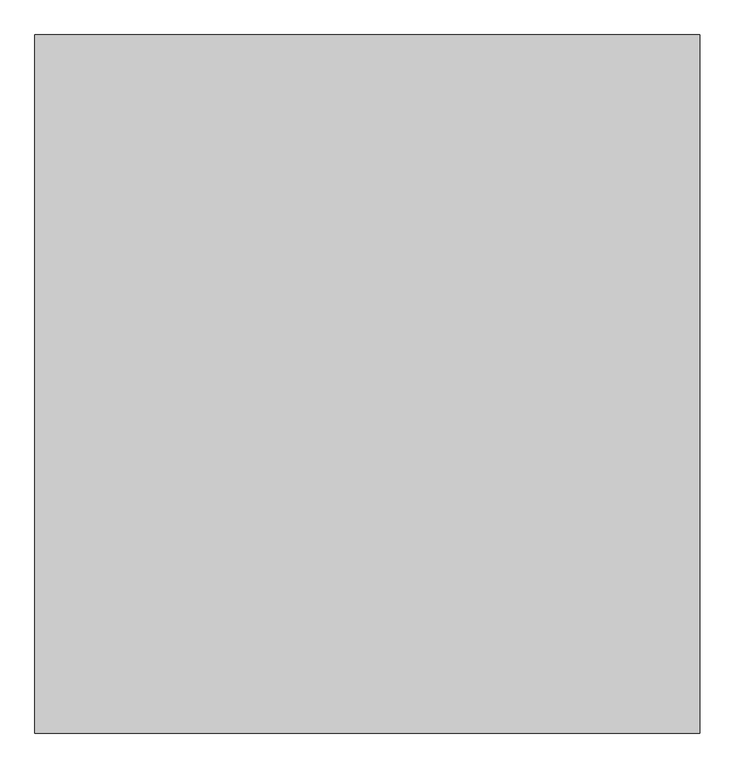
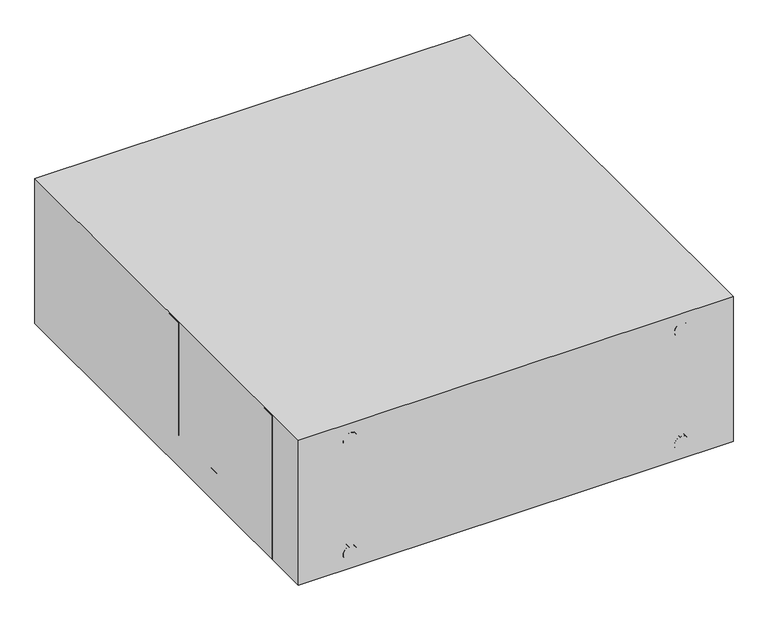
"""IFC4 building model written with IfcOpenShell, lengths in millimetres: proxy geometry, HVAC_Fireplaces_Regency-Fireplace_San-Francisco-gas-fireplace_CB50E : CB50E-NG1."""

from ifc_helpers import new_model, si_unit, point, frame, frame_2d, origin, place, context, project, spatial, polyline, circle_curve, trimmed, segment, composite_curve, outline, extrude, faceted_brep, source, transform, mapped, element, save
from ifc_brep_helpers import plane_surface, cylinder_surface, advanced_brep


def specialty_equipment_93f9bb94(model_context):
    return source(origin(), model_context, "Body", "SolidModel", [
        advanced_brep(
        [(500.0, 883.8127047, -277.5), (500.0, 883.8127047, -175.5), (500.0, 883.8127047, -379.5), (500.0, 943.8127047, -341.0), (500.0, 943.8127047, -214.0), (500.0, 943.8127047, -277.5), (500.0, 913.8127047, -341.0), (500.0, 913.8127047, -214.0), (500.0, 913.8127047, -379.5), (500.0, 913.8127047, -175.5)],
        [
            (0, 1),
            (1, 2, circle_curve(frame((500.0, 883.8127047, -277.5), z_axis=(0.0, -1.0, 0.0), x_axis=(0.0, 0.0, 1.0)), 102.0)),
            (2, 0),
            (2, 1, circle_curve(frame((500.0, 883.8127047, -277.5), z_axis=(0.0, -1.0, 0.0), x_axis=(0.0, 0.0, 1.0)), 102.0)),
            (3, 4, circle_curve(frame((500.0, 943.8127047, -277.5), z_axis=(0.0, 1.0, 0.0), x_axis=(0.0, 0.0, 1.0)), 63.5)),
            (4, 5),
            (5, 3),
            (4, 3, circle_curve(frame((500.0, 943.8127047, -277.5), z_axis=(0.0, 1.0, 0.0), x_axis=(0.0, 0.0, 1.0)), 63.5)),
            (6, 7, circle_curve(frame((500.0, 913.8127047, -277.5), z_axis=(0.0, 1.0, 0.0), x_axis=(0.0, 0.0, 1.0)), 63.5)),
            (7, 4),
            (3, 6),
            (7, 6, circle_curve(frame((500.0, 913.8127047, -277.5), z_axis=(0.0, 1.0, 0.0), x_axis=(0.0, 0.0, 1.0)), 63.5)),
            (8, 9, circle_curve(frame((500.0, 913.8127047, -277.5), z_axis=(0.0, 1.0, 0.0), x_axis=(0.0, 0.0, 1.0)), 102.0)),
            (9, 7),
            (6, 8),
            (9, 8, circle_curve(frame((500.0, 913.8127047, -277.5), z_axis=(0.0, 1.0, 0.0), x_axis=(0.0, 0.0, 1.0)), 102.0)),
            (1, 9),
            (8, 2),
        ],
        [
            plane_surface(frame((500.0, 883.8127047, -277.5), z_axis=(0.0, -1.0, 0.0), x_axis=(0.0, 0.0, 1.0))),
            plane_surface(frame((500.0, 943.8127047, -277.5), z_axis=(0.0, 1.0, 0.0), x_axis=(0.0, 0.0, 1.0))),
            cylinder_surface(frame((500.0, 883.8127047, -277.5), z_axis=(0.0, -1.0, 0.0), x_axis=(0.0, 0.0, 1.0)), 63.5),
            plane_surface(frame((500.0, 913.8127047, -277.5), z_axis=(0.0, 1.0, 0.0), x_axis=(0.0, 0.0, 1.0))),
            cylinder_surface(frame((500.0, 883.8127047, -277.5), z_axis=(0.0, -1.0, 0.0), x_axis=(0.0, 0.0, 1.0)), 102.0),
        ],
        [
            (0, [[1, 2, 3]]),
            (0, [[-3, 4, -1]]),
            (1, [[5, 6, 7]]),
            (1, [[8, -7, -6]]),
            (2, [[9, 10, -5, 11]]),
            (2, [[12, -11, -8, -10]]),
            (3, [[13, 14, -9, 15]]),
            (3, [[16, -15, -12, -14]]),
            (4, [[-2, 17, -13, 18]]),
            (4, [[-4, -18, -16, -17]]),
        ],
    ),
        extrude(outline(polyline([(658.7917247, 265.0), (-655.3684292, 265.0), (-655.3684292, 726.0), (658.7917247, 726.0), (658.7917247, 265.0)])), frame((0.0, 0.0, -435.0), z_axis=(0.0, 0.0, 1.0), x_axis=(1.0, 0.0, 0.0)), (0.0, 0.0, 1.0), 5.0),
        extrude(outline(polyline([(762.0, 0.0), (-762.0, 0.0), (-762.0, 1600.0), (762.0, 1600.0), (762.0, 0.0)])), frame((0.0, 0.0, -537.0), z_axis=(0.0, 0.0, 1.0), x_axis=(1.0, 0.0, 0.0)), (0.0, 0.0, 1.0), 537.0),
        extrude(outline(composite_curve([segment(trimmed(circle_curve(frame_2d((96.2011308, -59.0808685)), 6.4), [point((89.8011308, -59.0808685))], [point((102.6011308, -59.0808685))], False, "CARTESIAN"), True, "CONTINUOUS"), segment(trimmed(circle_curve(frame_2d((96.2011308, -59.0808685)), 6.4), [point((102.6011308, -59.0808685))], [point((89.8011308, -59.0808685))], False, "CARTESIAN"), True, "CONTINUOUS")], self_intersect=False)), frame((627.0101637, 0.0, 0.0), z_axis=(1.0, 0.0, 0.0), x_axis=(0.0, 1.0, 0.0)), (0.0, 0.0, 1.0), 36.691591),
        extrude(outline(polyline([(-423.0, 656.6758009), (-423.0, 661.6758009), (-105.0, 661.6758009), (-105.0, -662.484353), (-423.0, -662.484353), (-423.0, -657.484353), (-110.0, -657.484353), (-110.0, 656.6758009), (-423.0, 656.6758009)])), frame((0.0, 260.0, 0.0), z_axis=(0.0, 1.0, 0.0), x_axis=(0.0, 0.0, 1.0)), (0.0, 0.0, 1.0), 466.0),
        faceted_brep([(762.0, 883.8127047, -5.0), (-762.0, 883.8127047, -5.0), (-762.0, 726.0, -5.0), (762.0, 726.0, -5.0), (762.0, 260.0, -5.0), (-762.0, 260.0, -5.0), (-762.0, 157.5, -5.0), (-663.7017547, 88.6708276, -5.0), (-663.7017547, 55.0, -5.0), (663.7017547, 55.0, -5.0), (663.7017547, 88.6708276, -5.0), (762.0, 157.5, -5.0), (-762.0, 883.8127047, -537.0), (762.0, 883.8127047, -537.0), (762.0, 157.5, -537.0), (663.7017547, 88.6708276, -537.0), (663.7017547, 55.0, -537.0), (-663.7017547, 55.0, -537.0), (-663.7017547, 88.6708276, -537.0), (-762.0, 157.5, -537.0), (762.0, 726.0, -423.0), (762.0, 260.0, -423.0), (-762.0, 260.0, -423.0), (-762.0, 726.0, -423.0), (663.7017547, 88.6708276, -95.4702403), (663.7017547, 84.2794183, -95.4702403), (663.7017547, 84.2794183, -72.5613842), (663.7017547, 88.6708276, -72.5613842), (663.7017547, 88.6708276, -70.0702403), (663.7017547, 84.2794183, -70.0702403), (663.7017547, 84.2794183, -47.1613842), (663.7017547, 88.6708276, -47.1613842), (690.5563749, 107.4746351, -47.1613842), (690.5563749, 107.4746351, -70.0702403), (690.5563749, 107.4746351, -72.5613842), (690.5563749, 107.4746351, -95.4702403), (627.0101637, 107.4746351, -47.1613842), (627.0101637, 84.2794183, -47.1613842), (627.0101637, 84.2794183, -70.0702403), (627.0101637, 107.4746351, -70.0702403), (627.0101637, 107.4746351, -72.5613842), (627.0101637, 84.2794183, -72.5613842), (627.0101637, 84.2794183, -95.4702403), (627.0101637, 107.4746351, -95.4702403)], [[[0, 1, 2, 3]], [[4, 5, 6, 7, 8, 9, 10, 11]], [[12, 13, 14, 15, 16, 17, 18, 19]], [[13, 0, 3, 20, 21, 4, 11, 14]], [[1, 0, 13, 12]], [[1, 12, 19, 6, 5, 22, 23, 2]], [[9, 8, 17, 16]], [[20, 23, 22, 21]], [[23, 20, 3, 2]], [[21, 22, 5, 4]], [[18, 7, 6, 19]], [[7, 18, 17, 8]], [[10, 9, 16, 15, 24, 25, 26, 27, 28, 29, 30, 31]], [[11, 10, 31, 32, 33, 28, 27, 34, 35, 24, 15, 14]], [[36, 37, 38, 39]], [[40, 41, 42, 43]], [[37, 36, 32, 31, 30]], [[38, 37, 30, 29]], [[39, 38, 29, 28, 33]], [[36, 39, 33, 32]], [[41, 40, 34, 27, 26]], [[42, 41, 26, 25]], [[43, 42, 25, 24, 35]], [[40, 43, 35, 34]]]),
        advanced_brep(
        [(580.5449169, 55.0, -480.0), (580.5449169, 55.0, -470.0), (580.5449169, 55.0, -490.0), (580.5449169, 20.0, -470.0), (580.5449169, 20.0, -490.0), (580.5449169, 20.0, -455.0), (580.5449169, 20.0, -505.0), (580.5449169, 0.0, -455.0), (580.5449169, 0.0, -505.0), (580.5449169, 0.0, -480.0)],
        [
            (0, 1),
            (1, 2, circle_curve(frame((580.5449169, 55.0, -480.0), z_axis=(0.0, 1.0, 0.0), x_axis=(0.0, 0.0, 1.0)), 10.0)),
            (2, 0),
            (2, 1, circle_curve(frame((580.5449169, 55.0, -480.0), z_axis=(0.0, 1.0, 0.0), x_axis=(0.0, 0.0, 1.0)), 10.0)),
            (1, 3),
            (3, 4, circle_curve(frame((580.5449169, 20.0, -480.0), z_axis=(0.0, 1.0, 0.0), x_axis=(0.0, 0.0, 1.0)), 10.0)),
            (4, 2),
            (4, 3, circle_curve(frame((580.5449169, 20.0, -480.0), z_axis=(0.0, 1.0, 0.0), x_axis=(0.0, 0.0, 1.0)), 10.0)),
            (3, 5),
            (5, 6, circle_curve(frame((580.5449169, 20.0, -480.0), z_axis=(0.0, 1.0, 0.0), x_axis=(0.0, 0.0, 1.0)), 25.0)),
            (6, 4),
            (6, 5, circle_curve(frame((580.5449169, 20.0, -480.0), z_axis=(0.0, 1.0, 0.0), x_axis=(0.0, 0.0, 1.0)), 25.0)),
            (5, 7),
            (7, 8, circle_curve(frame((580.5449169, 0.0, -480.0), z_axis=(0.0, 1.0, 0.0), x_axis=(0.0, 0.0, 1.0)), 25.0)),
            (8, 6),
            (8, 7, circle_curve(frame((580.5449169, 0.0, -480.0), z_axis=(0.0, 1.0, 0.0), x_axis=(0.0, 0.0, 1.0)), 25.0)),
            (7, 9),
            (9, 8),
        ],
        [
            plane_surface(frame((580.5449169, 55.0, -480.0), z_axis=(0.0, 1.0, 0.0), x_axis=(0.0, 0.0, 1.0))),
            cylinder_surface(frame((580.5449169, 55.0, -480.0), z_axis=(0.0, 1.0, 0.0), x_axis=(0.0, 0.0, 1.0)), 10.0),
            plane_surface(frame((580.5449169, 20.0, -480.0), z_axis=(0.0, 1.0, 0.0), x_axis=(0.0, 0.0, 1.0))),
            cylinder_surface(frame((580.5449169, 55.0, -480.0), z_axis=(0.0, 1.0, 0.0), x_axis=(0.0, 0.0, 1.0)), 25.0),
            plane_surface(frame((580.5449169, 0.0, -480.0), z_axis=(0.0, -1.0, 0.0), x_axis=(0.0, 0.0, 1.0))),
        ],
        [
            (0, [[1, 2, 3]]),
            (0, [[-3, 4, -1]]),
            (1, [[-2, 5, 6, 7]]),
            (1, [[-4, -7, 8, -5]]),
            (2, [[-6, 9, 10, 11]]),
            (2, [[-8, -11, 12, -9]]),
            (3, [[-10, 13, 14, 15]]),
            (3, [[-12, -15, 16, -13]]),
            (4, [[-14, 17, 18]]),
            (4, [[-16, -18, -17]]),
        ],
    ),
        advanced_brep(
        [(580.5449169, 55.0, -60.0), (580.5449169, 55.0, -50.0), (580.5449169, 55.0, -70.0), (580.5449169, 20.0, -50.0), (580.5449169, 20.0, -70.0), (580.5449169, 20.0, -35.0), (580.5449169, 20.0, -85.0), (580.5449169, 0.0, -35.0), (580.5449169, 0.0, -85.0), (580.5449169, 0.0, -60.0)],
        [
            (0, 1),
            (1, 2, circle_curve(frame((580.5449169, 55.0, -60.0), z_axis=(0.0, 1.0, 0.0), x_axis=(0.0, 0.0, 1.0)), 10.0)),
            (2, 0),
            (2, 1, circle_curve(frame((580.5449169, 55.0, -60.0), z_axis=(0.0, 1.0, 0.0), x_axis=(0.0, 0.0, 1.0)), 10.0)),
            (1, 3),
            (3, 4, circle_curve(frame((580.5449169, 20.0, -60.0), z_axis=(0.0, 1.0, 0.0), x_axis=(0.0, 0.0, 1.0)), 10.0)),
            (4, 2),
            (4, 3, circle_curve(frame((580.5449169, 20.0, -60.0), z_axis=(0.0, 1.0, 0.0), x_axis=(0.0, 0.0, 1.0)), 10.0)),
            (3, 5),
            (5, 6, circle_curve(frame((580.5449169, 20.0, -60.0), z_axis=(0.0, 1.0, 0.0), x_axis=(0.0, 0.0, 1.0)), 25.0)),
            (6, 4),
            (6, 5, circle_curve(frame((580.5449169, 20.0, -60.0), z_axis=(0.0, 1.0, 0.0), x_axis=(0.0, 0.0, 1.0)), 25.0)),
            (5, 7),
            (7, 8, circle_curve(frame((580.5449169, 0.0, -60.0), z_axis=(0.0, 1.0, 0.0), x_axis=(0.0, 0.0, 1.0)), 25.0)),
            (8, 6),
            (8, 7, circle_curve(frame((580.5449169, 0.0, -60.0), z_axis=(0.0, 1.0, 0.0), x_axis=(0.0, 0.0, 1.0)), 25.0)),
            (7, 9),
            (9, 8),
        ],
        [
            plane_surface(frame((580.5449169, 55.0, -60.0), z_axis=(0.0, 1.0, 0.0), x_axis=(0.0, 0.0, 1.0))),
            cylinder_surface(frame((580.5449169, 55.0, -60.0), z_axis=(0.0, 1.0, 0.0), x_axis=(0.0, 0.0, 1.0)), 10.0),
            plane_surface(frame((580.5449169, 20.0, -60.0), z_axis=(0.0, 1.0, 0.0), x_axis=(0.0, 0.0, 1.0))),
            cylinder_surface(frame((580.5449169, 55.0, -60.0), z_axis=(0.0, 1.0, 0.0), x_axis=(0.0, 0.0, 1.0)), 25.0),
            plane_surface(frame((580.5449169, 0.0, -60.0), z_axis=(0.0, -1.0, 0.0), x_axis=(0.0, 0.0, 1.0))),
        ],
        [
            (0, [[1, 2, 3]]),
            (0, [[-3, 4, -1]]),
            (1, [[-2, 5, 6, 7]]),
            (1, [[-4, -7, 8, -5]]),
            (2, [[-6, 9, 10, 11]]),
            (2, [[-8, -11, 12, -9]]),
            (3, [[-10, 13, 14, 15]]),
            (3, [[-12, -15, 16, -13]]),
            (4, [[-14, 17, 18]]),
            (4, [[-16, -18, -17]]),
        ],
    ),
        advanced_brep(
        [(-580.5449169, 55.0, -490.0), (-580.5449169, 55.0, -470.0), (-580.5449169, 55.0, -480.0), (-580.5449169, 20.0, -490.0), (-580.5449169, 20.0, -470.0), (-580.5449169, 20.0, -505.0), (-580.5449169, 20.0, -455.0), (-580.5449169, 0.0, -505.0), (-580.5449169, 0.0, -455.0), (-580.5449169, 0.0, -480.0)],
        [
            (0, 1, circle_curve(frame((-580.5449169, 55.0, -480.0), z_axis=(0.0, 1.0, 0.0), x_axis=(0.0, 0.0, 1.0)), 10.0)),
            (1, 2),
            (2, 0),
            (1, 0, circle_curve(frame((-580.5449169, 55.0, -480.0), z_axis=(0.0, 1.0, 0.0), x_axis=(0.0, 0.0, 1.0)), 10.0)),
            (3, 4, circle_curve(frame((-580.5449169, 20.0, -480.0), z_axis=(0.0, 1.0, 0.0), x_axis=(0.0, 0.0, 1.0)), 10.0)),
            (4, 1),
            (0, 3),
            (4, 3, circle_curve(frame((-580.5449169, 20.0, -480.0), z_axis=(0.0, 1.0, 0.0), x_axis=(0.0, 0.0, 1.0)), 10.0)),
            (5, 6, circle_curve(frame((-580.5449169, 20.0, -480.0), z_axis=(0.0, 1.0, 0.0), x_axis=(0.0, 0.0, 1.0)), 25.0)),
            (6, 4),
            (3, 5),
            (6, 5, circle_curve(frame((-580.5449169, 20.0, -480.0), z_axis=(0.0, 1.0, 0.0), x_axis=(0.0, 0.0, 1.0)), 25.0)),
            (7, 8, circle_curve(frame((-580.5449169, 0.0, -480.0), z_axis=(0.0, 1.0, 0.0), x_axis=(0.0, 0.0, 1.0)), 25.0)),
            (8, 6),
            (5, 7),
            (8, 7, circle_curve(frame((-580.5449169, 0.0, -480.0), z_axis=(0.0, 1.0, 0.0), x_axis=(0.0, 0.0, 1.0)), 25.0)),
            (9, 8),
            (7, 9),
        ],
        [
            plane_surface(frame((-580.5449169, 55.0, -480.0), z_axis=(0.0, 1.0, 0.0), x_axis=(0.0, 0.0, 1.0))),
            cylinder_surface(frame((-580.5449169, 55.0, -480.0), z_axis=(0.0, -1.0, 0.0), x_axis=(0.0, 0.0, 1.0)), 10.0),
            plane_surface(frame((-580.5449169, 20.0, -480.0), z_axis=(0.0, 1.0, 0.0), x_axis=(0.0, 0.0, 1.0))),
            cylinder_surface(frame((-580.5449169, 55.0, -480.0), z_axis=(0.0, -1.0, 0.0), x_axis=(0.0, 0.0, 1.0)), 25.0),
            plane_surface(frame((-580.5449169, 0.0, -480.0), z_axis=(0.0, -1.0, 0.0), x_axis=(0.0, 0.0, 1.0))),
        ],
        [
            (0, [[1, 2, 3]]),
            (0, [[4, -3, -2]]),
            (1, [[5, 6, -1, 7]]),
            (1, [[8, -7, -4, -6]]),
            (2, [[9, 10, -5, 11]]),
            (2, [[12, -11, -8, -10]]),
            (3, [[13, 14, -9, 15]]),
            (3, [[16, -15, -12, -14]]),
            (4, [[17, -13, 18]]),
            (4, [[-18, -16, -17]]),
        ],
    ),
        advanced_brep(
        [(-580.5449169, 55.0, -70.0), (-580.5449169, 55.0, -50.0), (-580.5449169, 55.0, -60.0), (-580.5449169, 20.0, -70.0), (-580.5449169, 20.0, -50.0), (-580.5449169, 20.0, -85.0), (-580.5449169, 20.0, -35.0), (-580.5449169, 0.0, -85.0), (-580.5449169, 0.0, -35.0), (-580.5449169, 0.0, -60.0)],
        [
            (0, 1, circle_curve(frame((-580.5449169, 55.0, -60.0), z_axis=(0.0, 1.0, 0.0), x_axis=(0.0, 0.0, 1.0)), 10.0)),
            (1, 2),
            (2, 0),
            (1, 0, circle_curve(frame((-580.5449169, 55.0, -60.0), z_axis=(0.0, 1.0, 0.0), x_axis=(0.0, 0.0, 1.0)), 10.0)),
            (3, 4, circle_curve(frame((-580.5449169, 20.0, -60.0), z_axis=(0.0, 1.0, 0.0), x_axis=(0.0, 0.0, 1.0)), 10.0)),
            (4, 1),
            (0, 3),
            (4, 3, circle_curve(frame((-580.5449169, 20.0, -60.0), z_axis=(0.0, 1.0, 0.0), x_axis=(0.0, 0.0, 1.0)), 10.0)),
            (5, 6, circle_curve(frame((-580.5449169, 20.0, -60.0), z_axis=(0.0, 1.0, 0.0), x_axis=(0.0, 0.0, 1.0)), 25.0)),
            (6, 4),
            (3, 5),
            (6, 5, circle_curve(frame((-580.5449169, 20.0, -60.0), z_axis=(0.0, 1.0, 0.0), x_axis=(0.0, 0.0, 1.0)), 25.0)),
            (7, 8, circle_curve(frame((-580.5449169, 0.0, -60.0), z_axis=(0.0, 1.0, 0.0), x_axis=(0.0, 0.0, 1.0)), 25.0)),
            (8, 6),
            (5, 7),
            (8, 7, circle_curve(frame((-580.5449169, 0.0, -60.0), z_axis=(0.0, 1.0, 0.0), x_axis=(0.0, 0.0, 1.0)), 25.0)),
            (9, 8),
            (7, 9),
        ],
        [
            plane_surface(frame((-580.5449169, 55.0, -60.0), z_axis=(0.0, 1.0, 0.0), x_axis=(0.0, 0.0, 1.0))),
            cylinder_surface(frame((-580.5449169, 55.0, -60.0), z_axis=(0.0, -1.0, 0.0), x_axis=(0.0, 0.0, 1.0)), 10.0),
            plane_surface(frame((-580.5449169, 20.0, -60.0), z_axis=(0.0, 1.0, 0.0), x_axis=(0.0, 0.0, 1.0))),
            cylinder_surface(frame((-580.5449169, 55.0, -60.0), z_axis=(0.0, -1.0, 0.0), x_axis=(0.0, 0.0, 1.0)), 25.0),
            plane_surface(frame((-580.5449169, 0.0, -60.0), z_axis=(0.0, -1.0, 0.0), x_axis=(0.0, 0.0, 1.0))),
        ],
        [
            (0, [[1, 2, 3]]),
            (0, [[4, -3, -2]]),
            (1, [[5, 6, -1, 7]]),
            (1, [[8, -7, -4, -6]]),
            (2, [[9, 10, -5, 11]]),
            (2, [[12, -11, -8, -10]]),
            (3, [[13, 14, -9, 15]]),
            (3, [[16, -15, -12, -14]]),
            (4, [[17, -13, 18]]),
            (4, [[-18, -16, -17]]),
        ],
    ),
        extrude(outline(polyline([(656.6758009, 260.0), (-657.484353, 260.0), (-657.484353, 265.0), (656.6758009, 265.0), (656.6758009, 260.0)])), frame((0.0, 0.0, -423.0), z_axis=(0.0, 0.0, 1.0), x_axis=(1.0, 0.0, 0.0)), (0.0, 0.0, 1.0), 313.0),
    ])


if __name__ == "__main__":
    model = new_model("IFC4")
    model_context = context("Model", 3, world=origin())
    ifc_project = project(units=[si_unit("LENGTHUNIT", "METRE", prefix="MILLI")], contexts=[model_context])
    site = spatial("IfcSite", under=ifc_project)
    building = spatial("IfcBuilding", under=site)
    placement = place(None, origin())
    specialty_equipment_shape = specialty_equipment_93f9bb94(model_context)
    element("IfcBuildingElementProxy", 1, Name="HVAC_Fireplaces_Regency-Fireplace_San-Francisco-gas-fireplace_CB50E : CB50E-NG1", ObjectType="HVAC_Fireplaces_Regency-Fireplace_San-Francisco-gas-fireplace_CB50E : CB50E-NG1", at=placement, inside=building, context=model_context, shape_type="MappedRepresentation", body=[
        mapped(specialty_equipment_shape, transform((0.0, 0.0, 0.0), x_axis=(1.0, 0.0, 0.0), y_axis=(0.0, 1.0, 0.0), z_axis=(0.0, 0.0, 1.0))),
    ])
    save(model, "model.ifc")
